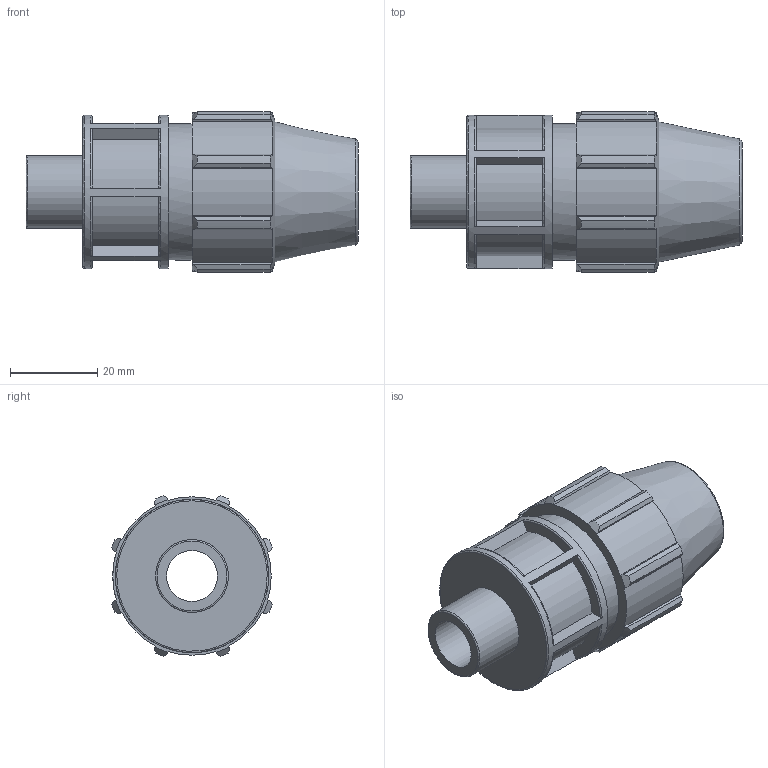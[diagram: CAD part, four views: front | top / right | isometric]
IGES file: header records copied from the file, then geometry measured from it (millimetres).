
Global section: file name: 070206016003__0702060160030A.ipt; native system: Autodesk Inventor 2015; preprocessor: unknown; author: KIM; date: 20170606.110226; units: millimetre
Bounding box: 76 x 36.7 x 36.7 mm (x, y, z)
Volume: 39467.3 mm3; surface area: 13923.9 mm2
Topology: 1 solids, 1 shells, 117 faces, 321 edges, 216 vertices
Faces by surface type: plane 63, cylinder 25, revolution 19, cone 10
Full cylindrical faces by diameter (mm): 16.662 x1, 31.2 x1, 35.1 x1
